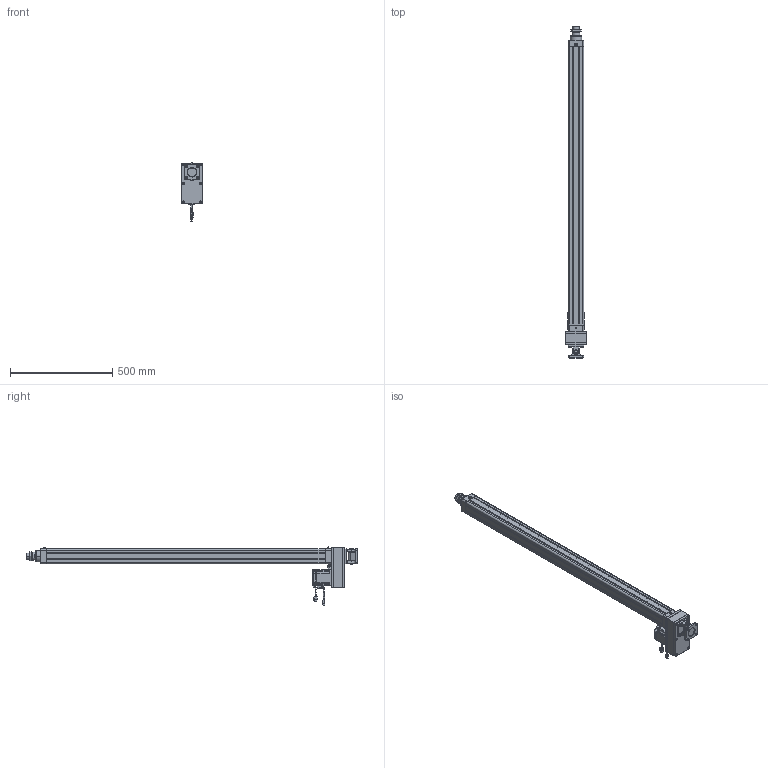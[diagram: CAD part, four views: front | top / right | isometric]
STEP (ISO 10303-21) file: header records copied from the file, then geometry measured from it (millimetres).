
FILE_DESCRIPTION((''),'2;1');
FILE_NAME('HE63-D-100-X1_ASM','2020-05-19T',('ASUS20200'),(''),'CREO PARAMETRIC BY PTC INC, 2014190','CREO PARAMETRIC BY PTC INC, 2014190','');
FILE_SCHEMA(('CONFIG_CONTROL_DESIGN'));
Length unit declared in the file: millimetre
Products named in the file (33): HE63-D-P-001-X1; HE63-D-P-002-X1; HE63-D-P-003-X1; 30302J; LGLM-M8-22; SLM-01; YZ-M6X1; JDB405030; HE63-P-010-X1-80N; _MHMF082L1A2; _CABLE_MOTOR_BOTTOM_05; _CABLE_MOTOR_TOP_05; _MOTOR_CONNECTOR_2; _CABLE_BRAKE_BOTTOM_05; _CABLE_BRAKE_TOP_05; _MHMF_CONNECTOR_9_PIN_A6; MHMF082L1A2M2_1_ASM; JX6X6X25; HE63-P-012-X1; HE63-P-013-X1; M6X60; JM-M8; LM-M8-15; LM-M8X1-25; F-SE63CB; F-SE63CB-XD; F-SE63CB_ASM; F-SE63CA; M8X20; HE63-D-P-005-X1; HE63-D-P-004-X1; HE63-D-P-008-X1; HE63-D-100-X1_ASM
Assembly tree (47 placements, depth 3):
  HE63-D-100-X1_ASM
    HE63-D-P-001-X1
    HE63-D-P-002-X1
    HE63-D-P-003-X1
    30302J
    LGLM-M8-22  x8
    SLM-01
    YZ-M6X1
    JDB405030
    HE63-P-010-X1-80N
    MHMF082L1A2M2_1_ASM
      _MHMF082L1A2
      _CABLE_MOTOR_BOTTOM_05
      _CABLE_MOTOR_TOP_05
      _MOTOR_CONNECTOR_2
      _CABLE_BRAKE_BOTTOM_05
      _CABLE_BRAKE_TOP_05
      _MHMF_CONNECTOR_9_PIN_A6
    JX6X6X25
    HE63-P-012-X1
    HE63-P-013-X1
    M6X60  x6
    JM-M8
    LM-M8-15
    LM-M8X1-25
    F-SE63CB_ASM
      F-SE63CB
      F-SE63CB-XD
    F-SE63CA
    M8X20  x4
    HE63-D-P-005-X1
    HE63-D-P-004-X1
    HE63-D-P-008-X1
Bounding box: 100 x 1621 x 284.15 mm (x, y, z)
Volume: 4496059.3 mm3; surface area: 1372757.7 mm2
Topology: 45 solids, 78 shells, 2781 faces, 6679 edges, 4149 vertices
Faces by surface type: plane 1159, cylinder 814, cone 633, torus 130, sphere 42, bspline 3
Entity records: 70935 total; most frequent: CARTESIAN_POINT 13193, DIRECTION 12745, ORIENTED_EDGE 11260, EDGE_CURVE 5685, AXIS2_PLACEMENT_3D 4794, VERTEX_POINT 3556, VECTOR 3157, LINE 3157
